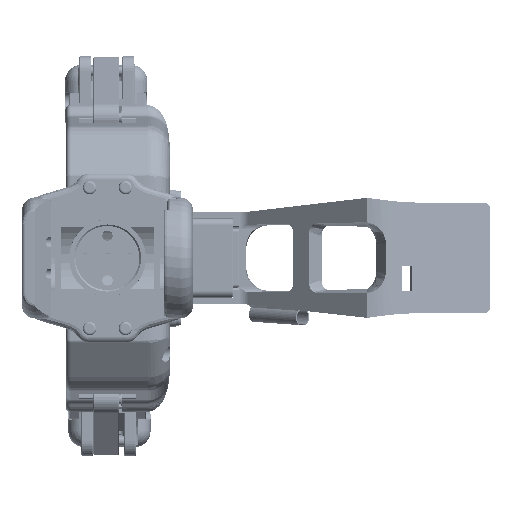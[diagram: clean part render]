
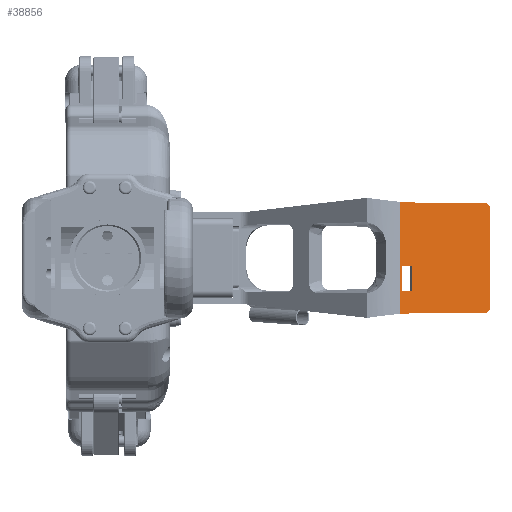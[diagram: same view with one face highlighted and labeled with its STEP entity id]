
A CAD part, top view. The second image highlights one B-rep face of the part: STEP entity #38856.
In plain terms, the highlighted planar face has unit normal (0.5, 0, 0.866) as drawn and (0, 0.5, -0.866) by its records, which use the part's own axes.
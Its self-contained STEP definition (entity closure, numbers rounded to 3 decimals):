
#1484=FACE_BOUND('',#6768,.T.);
#2147=PLANE('',#42727);
#4294=FACE_OUTER_BOUND('',#6767,.T.);
#6767=EDGE_LOOP('',(#34619,#34620,#34621,#34622,#34623,#34624,#34625,#34626));
#6768=EDGE_LOOP('',(#34627,#34628,#34629,#34630));
#8094=B_SPLINE_CURVE_WITH_KNOTS('',3,(#111886,#111887,#111888,#111889),
 .UNSPECIFIED.,.F.,.F.,(4,4),(0.,1.056),.UNSPECIFIED.);
#8098=B_SPLINE_CURVE_WITH_KNOTS('',3,(#111928,#111929,#111930,#111931),
 .UNSPECIFIED.,.F.,.F.,(4,4),(1.704,2.765),
 .UNSPECIFIED.);
#10644=LINE('',#111811,#13272);
#10647=LINE('',#111821,#13275);
#10657=LINE('',#111852,#13285);
#10659=LINE('',#111856,#13287);
#10662=LINE('',#111943,#13290);
#10664=LINE('',#111947,#13292);
#10665=LINE('',#111950,#13293);
#10666=LINE('',#111952,#13294);
#10667=LINE('',#111954,#13295);
#10668=LINE('',#111955,#13296);
#13272=VECTOR('',#52176,10.);
#13275=VECTOR('',#52181,10.);
#13285=VECTOR('',#52195,10.);
#13287=VECTOR('',#52199,10.);
#13290=VECTOR('',#52208,10.);
#13292=VECTOR('',#52214,10.);
#13293=VECTOR('',#52215,10.);
#13294=VECTOR('',#52216,10.);
#13295=VECTOR('',#52217,10.);
#13296=VECTOR('',#52218,10.);
#18388=VERTEX_POINT('',#111808);
#18389=VERTEX_POINT('',#111810);
#18391=VERTEX_POINT('',#111816);
#18401=VERTEX_POINT('',#111849);
#18402=VERTEX_POINT('',#111851);
#18403=VERTEX_POINT('',#111855);
#18404=VERTEX_POINT('',#111885);
#18406=VERTEX_POINT('',#111919);
#18407=VERTEX_POINT('',#111948);
#18408=VERTEX_POINT('',#111949);
#18409=VERTEX_POINT('',#111951);
#18410=VERTEX_POINT('',#111953);
#23874=EDGE_CURVE('',#18388,#18389,#10644,.T.);
#23878=EDGE_CURVE('',#18391,#18388,#10647,.T.);
#23890=EDGE_CURVE('',#18401,#18402,#10657,.T.);
#23892=EDGE_CURVE('',#18402,#18403,#10659,.T.);
#23895=EDGE_CURVE('',#18403,#18404,#8094,.T.);
#23899=EDGE_CURVE('',#18391,#18406,#8098,.F.);
#23903=EDGE_CURVE('',#18404,#18406,#10662,.T.);
#23905=EDGE_CURVE('',#18389,#18401,#10664,.T.);
#23906=EDGE_CURVE('',#18407,#18408,#10665,.T.);
#23907=EDGE_CURVE('',#18409,#18407,#10666,.T.);
#23908=EDGE_CURVE('',#18410,#18409,#10667,.T.);
#23909=EDGE_CURVE('',#18408,#18410,#10668,.T.);
#34619=ORIENTED_EDGE('',*,*,#23874,.F.);
#34620=ORIENTED_EDGE('',*,*,#23878,.F.);
#34621=ORIENTED_EDGE('',*,*,#23899,.T.);
#34622=ORIENTED_EDGE('',*,*,#23903,.F.);
#34623=ORIENTED_EDGE('',*,*,#23895,.F.);
#34624=ORIENTED_EDGE('',*,*,#23892,.F.);
#34625=ORIENTED_EDGE('',*,*,#23890,.F.);
#34626=ORIENTED_EDGE('',*,*,#23905,.F.);
#34627=ORIENTED_EDGE('',*,*,#23906,.F.);
#34628=ORIENTED_EDGE('',*,*,#23907,.F.);
#34629=ORIENTED_EDGE('',*,*,#23908,.F.);
#34630=ORIENTED_EDGE('',*,*,#23909,.F.);
#38856=ADVANCED_FACE('',(#4294,#1484),#2147,.F.);
#42727=AXIS2_PLACEMENT_3D('',#111946,#52212,#52213);
#52176=DIRECTION('',(-0.707,0.612,0.354));
#52181=DIRECTION('',(0.,0.866,0.5));
#52195=DIRECTION('',(-0.707,-0.612,-0.354));
#52199=DIRECTION('',(0.,-0.866,-0.5));
#52208=DIRECTION('',(1.,0.,0.));
#52212=DIRECTION('center_axis',(0.,-0.5,0.866));
#52213=DIRECTION('ref_axis',(-1.,0.,0.));
#52214=DIRECTION('',(-1.,0.,0.));
#52215=DIRECTION('',(0.,-0.866,-0.5));
#52216=DIRECTION('',(1.,0.,0.));
#52217=DIRECTION('',(0.,0.866,0.5));
#52218=DIRECTION('',(-1.,0.,0.));
#111808=CARTESIAN_POINT('',(5.946,96.284,21.058));
#111810=CARTESIAN_POINT('',(4.795,97.28,21.633));
#111811=CARTESIAN_POINT('',(5.745,96.457,21.158));
#111816=CARTESIAN_POINT('',(5.946,78.205,10.62));
#111821=CARTESIAN_POINT('',(5.946,67.662,4.533));
#111849=CARTESIAN_POINT('',(-27.103,97.28,21.633));
#111851=CARTESIAN_POINT('',(-28.254,96.284,21.058));
#111852=CARTESIAN_POINT('',(-28.054,96.457,21.158));
#111855=CARTESIAN_POINT('',(-28.254,78.159,10.594));
#111856=CARTESIAN_POINT('',(-28.254,97.28,21.633));
#111885=CARTESIAN_POINT('',(-28.666,69.028,5.322));
#111886=CARTESIAN_POINT('Ctrl Pts',(-28.254,78.159,10.594));
#111887=CARTESIAN_POINT('Ctrl Pts',(-28.254,75.111,8.834));
#111888=CARTESIAN_POINT('Ctrl Pts',(-28.391,72.065,
7.075));
#111889=CARTESIAN_POINT('Ctrl Pts',(-28.666,69.028,
5.322));
#111919=CARTESIAN_POINT('',(6.362,69.028,5.322));
#111928=CARTESIAN_POINT('Ctrl Pts',(6.362,69.028,5.322));
#111929=CARTESIAN_POINT('Ctrl Pts',(6.084,72.08,7.084));
#111930=CARTESIAN_POINT('Ctrl Pts',(5.946,75.141,8.852));
#111931=CARTESIAN_POINT('Ctrl Pts',(5.946,78.205,10.62));
#111943=CARTESIAN_POINT('',(1.904,69.028,5.322));
#111946=CARTESIAN_POINT('Origin',(-11.154,81.172,12.333));
#111947=CARTESIAN_POINT('',(5.946,97.28,21.633));
#111948=CARTESIAN_POINT('',(-13.654,72.945,7.583));
#111949=CARTESIAN_POINT('',(-13.654,69.914,5.833));
#111950=CARTESIAN_POINT('',(-13.654,69.914,5.833));
#111951=CARTESIAN_POINT('',(-21.654,72.945,7.583));
#111952=CARTESIAN_POINT('',(-13.654,72.945,7.583));
#111953=CARTESIAN_POINT('',(-21.654,69.914,5.833));
#111954=CARTESIAN_POINT('',(-21.654,72.945,7.583));
#111955=CARTESIAN_POINT('',(-21.654,69.914,5.833));
